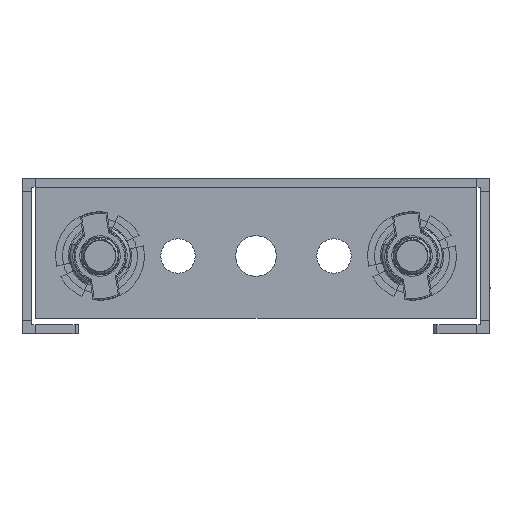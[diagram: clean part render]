
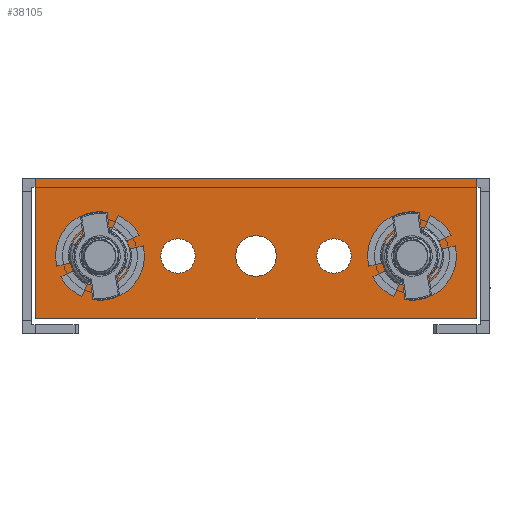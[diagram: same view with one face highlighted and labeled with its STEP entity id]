
A CAD part, left-side view. The second image highlights one B-rep face of the part: STEP entity #38105.
In plain terms, the highlighted planar face has unit normal (-1, 0, 0).
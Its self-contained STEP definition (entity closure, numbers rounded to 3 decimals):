
#18199 = VERTEX_POINT('',#18200);
#18200 = CARTESIAN_POINT('',(-349.,35.346,-0.));
#18207 = EDGE_CURVE('',#18208,#18199,#18210,.T.);
#18208 = VERTEX_POINT('',#18209);
#18209 = CARTESIAN_POINT('',(-349.,-35.346,
    0.));
#18210 = LINE('',#18211,#18212);
#18211 = CARTESIAN_POINT('',(-349.,0.,-0.));
#18212 = VECTOR('',#18213,1.);
#18213 = DIRECTION('',(-0.,1.,-0.));
#37906 = EDGE_CURVE('',#37907,#18208,#37909,.T.);
#37907 = VERTEX_POINT('',#37908);
#37908 = CARTESIAN_POINT('',(-349.,-35.293,-2.1));
#37909 = B_SPLINE_CURVE_WITH_KNOTS('',3,(#37910,#37911,#37912,#37913),
  .UNSPECIFIED.,.F.,.F.,(4,4),(0.002,0.004),
  .PIECEWISE_BEZIER_KNOTS.);
#37910 = CARTESIAN_POINT('',(-349.,-35.293,-2.1));
#37911 = CARTESIAN_POINT('',(-349.,-35.316,-1.4));
#37912 = CARTESIAN_POINT('',(-349.,-35.335,-0.7));
#37913 = CARTESIAN_POINT('',(-349.,-35.346,
    0.));
#37999 = EDGE_CURVE('',#38000,#18199,#38002,.T.);
#38000 = VERTEX_POINT('',#38001);
#38001 = CARTESIAN_POINT('',(-349.,35.293,-2.1));
#38002 = B_SPLINE_CURVE_WITH_KNOTS('',3,(#38003,#38004,#38005,#38006),
  .UNSPECIFIED.,.F.,.F.,(4,4),(0.002,0.004),
  .PIECEWISE_BEZIER_KNOTS.);
#38003 = CARTESIAN_POINT('',(-349.,35.293,-2.1));
#38004 = CARTESIAN_POINT('',(-349.,35.316,-1.4));
#38005 = CARTESIAN_POINT('',(-349.,35.335,-0.7));
#38006 = CARTESIAN_POINT('',(-349.,35.346,-0.));
#38081 = VERTEX_POINT('',#38082);
#38082 = CARTESIAN_POINT('',(-349.,-35.293,-22.5));
#38095 = EDGE_CURVE('',#37907,#38081,#38096,.T.);
#38096 = LINE('',#38097,#38098);
#38097 = CARTESIAN_POINT('',(-349.,-35.293,-1.5));
#38098 = VECTOR('',#38099,1.);
#38099 = DIRECTION('',(0.,0.,-1.));
#38105 = ADVANCED_FACE('',(#38106,#38117,#38128,#38139,#38150,#38161),
  #38181,.F.);
#38106 = FACE_BOUND('',#38107,.T.);
#38107 = EDGE_LOOP('',(#38108));
#38108 = ORIENTED_EDGE('',*,*,#38109,.F.);
#38109 = EDGE_CURVE('',#38110,#38110,#38112,.T.);
#38110 = VERTEX_POINT('',#38111);
#38111 = CARTESIAN_POINT('',(-349.,-12.5,-9.75));
#38112 = CIRCLE('',#38113,2.75);
#38113 = AXIS2_PLACEMENT_3D('',#38114,#38115,#38116);
#38114 = CARTESIAN_POINT('',(-349.,-12.5,-12.5));
#38115 = DIRECTION('',(-1.,0.,0.));
#38116 = DIRECTION('',(0.,0.,1.));
#38117 = FACE_BOUND('',#38118,.T.);
#38118 = EDGE_LOOP('',(#38119));
#38119 = ORIENTED_EDGE('',*,*,#38120,.F.);
#38120 = EDGE_CURVE('',#38121,#38121,#38123,.T.);
#38121 = VERTEX_POINT('',#38122);
#38122 = CARTESIAN_POINT('',(-349.,12.5,-15.25));
#38123 = CIRCLE('',#38124,2.75);
#38124 = AXIS2_PLACEMENT_3D('',#38125,#38126,#38127);
#38125 = CARTESIAN_POINT('',(-349.,12.5,-12.5));
#38126 = DIRECTION('',(-1.,0.,0.));
#38127 = DIRECTION('',(0.,0.,-1.));
#38128 = FACE_BOUND('',#38129,.T.);
#38129 = EDGE_LOOP('',(#38130));
#38130 = ORIENTED_EDGE('',*,*,#38131,.F.);
#38131 = EDGE_CURVE('',#38132,#38132,#38134,.T.);
#38132 = VERTEX_POINT('',#38133);
#38133 = CARTESIAN_POINT('',(-349.,25.,-15.75));
#38134 = CIRCLE('',#38135,3.25);
#38135 = AXIS2_PLACEMENT_3D('',#38136,#38137,#38138);
#38136 = CARTESIAN_POINT('',(-349.,25.,-12.5));
#38137 = DIRECTION('',(-1.,0.,0.));
#38138 = DIRECTION('',(0.,0.,-1.));
#38139 = FACE_BOUND('',#38140,.T.);
#38140 = EDGE_LOOP('',(#38141));
#38141 = ORIENTED_EDGE('',*,*,#38142,.F.);
#38142 = EDGE_CURVE('',#38143,#38143,#38145,.T.);
#38143 = VERTEX_POINT('',#38144);
#38144 = CARTESIAN_POINT('',(-349.,-25.,-9.25));
#38145 = CIRCLE('',#38146,3.25);
#38146 = AXIS2_PLACEMENT_3D('',#38147,#38148,#38149);
#38147 = CARTESIAN_POINT('',(-349.,-25.,-12.5));
#38148 = DIRECTION('',(-1.,0.,0.));
#38149 = DIRECTION('',(0.,0.,1.));
#38150 = FACE_BOUND('',#38151,.T.);
#38151 = EDGE_LOOP('',(#38152));
#38152 = ORIENTED_EDGE('',*,*,#38153,.F.);
#38153 = EDGE_CURVE('',#38154,#38154,#38156,.T.);
#38154 = VERTEX_POINT('',#38155);
#38155 = CARTESIAN_POINT('',(-349.,0.,-9.25));
#38156 = CIRCLE('',#38157,3.25);
#38157 = AXIS2_PLACEMENT_3D('',#38158,#38159,#38160);
#38158 = CARTESIAN_POINT('',(-349.,0.,-12.5));
#38159 = DIRECTION('',(-1.,0.,0.));
#38160 = DIRECTION('',(0.,0.,1.));
#38161 = FACE_BOUND('',#38162,.T.);
#38162 = EDGE_LOOP('',(#38163,#38164,#38165,#38166,#38167,#38175));
#38163 = ORIENTED_EDGE('',*,*,#38095,.F.);
#38164 = ORIENTED_EDGE('',*,*,#37906,.T.);
#38165 = ORIENTED_EDGE('',*,*,#18207,.T.);
#38166 = ORIENTED_EDGE('',*,*,#37999,.F.);
#38167 = ORIENTED_EDGE('',*,*,#38168,.T.);
#38168 = EDGE_CURVE('',#38000,#38169,#38171,.T.);
#38169 = VERTEX_POINT('',#38170);
#38170 = CARTESIAN_POINT('',(-349.,35.293,-22.5));
#38171 = LINE('',#38172,#38173);
#38172 = CARTESIAN_POINT('',(-349.,35.293,0.));
#38173 = VECTOR('',#38174,1.);
#38174 = DIRECTION('',(0.,0.,-1.));
#38175 = ORIENTED_EDGE('',*,*,#38176,.F.);
#38176 = EDGE_CURVE('',#38081,#38169,#38177,.T.);
#38177 = LINE('',#38178,#38179);
#38178 = CARTESIAN_POINT('',(-349.,-37.5,-22.5));
#38179 = VECTOR('',#38180,1.);
#38180 = DIRECTION('',(-0.,1.,-0.));
#38181 = PLANE('',#38182);
#38182 = AXIS2_PLACEMENT_3D('',#38183,#38184,#38185);
#38183 = CARTESIAN_POINT('',(-349.,0.,0.));
#38184 = DIRECTION('',(1.,0.,0.));
#38185 = DIRECTION('',(0.,0.,-1.));
